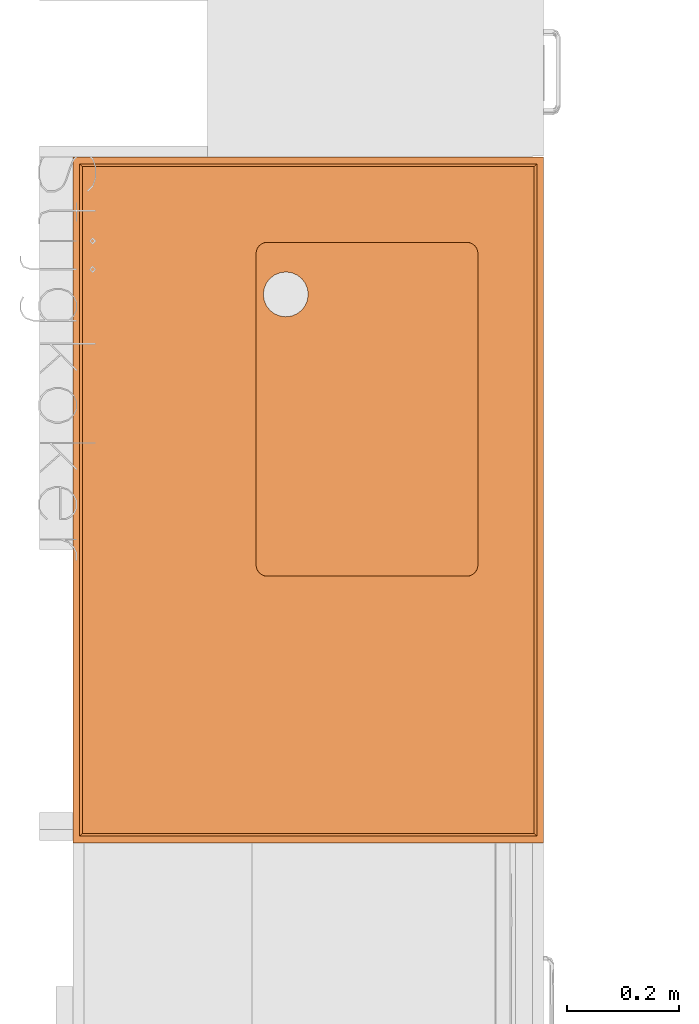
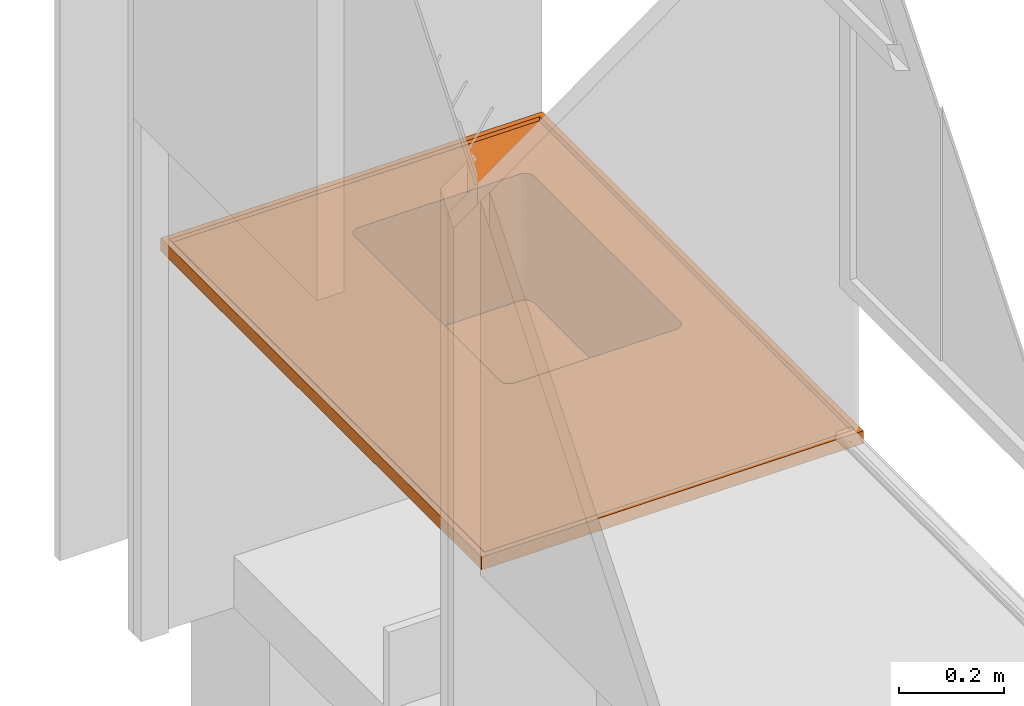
# One storey, part 41 of 43: 1 proxy.
"""IFC2X3 building model written with IfcOpenShell, lengths in metres."""

from ifc_helpers import new_model, entity, si_unit, converted_unit, derived_unit, direction, frame, origin, place, context, subcontext, project, spatial, faceted_brep, source, transform, mapped, material, type_object, type_shapes, element, save


model = new_model("IFC2X3")

# Units and contexts
model_context = context("Model", 3, precision=1e-05, world=origin(), true_north=direction((6.12303176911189e-17, 1.0)))
body_context = subcontext(model_context, "Body", "Model", "MODEL_VIEW")
ifc_project = project(units=[si_unit("LENGTHUNIT", "METRE"), si_unit("AREAUNIT", "SQUARE_METRE"), si_unit("VOLUMEUNIT", "CUBIC_METRE"), converted_unit("PLANEANGLEUNIT", "DEGREE", entity("IfcRatioMeasure", 0.0174532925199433), si_unit("PLANEANGLEUNIT", "RADIAN"), dimensions=[0, 0, 0, 0, 0, 0, 0]), si_unit("MASSUNIT", "GRAM", prefix="KILO"), derived_unit("MASSDENSITYUNIT", [(si_unit("MASSUNIT", "GRAM", prefix="KILO"), 1), (si_unit("LENGTHUNIT", "METRE"), -3)]), derived_unit("MOMENTOFINERTIAUNIT", [(si_unit("LENGTHUNIT", "METRE"), 4)]), si_unit("TIMEUNIT", "SECOND"), si_unit("FREQUENCYUNIT", "HERTZ"), si_unit("THERMODYNAMICTEMPERATUREUNIT", "DEGREE_CELSIUS"), derived_unit("THERMALTRANSMITTANCEUNIT", [(si_unit("MASSUNIT", "GRAM", prefix="KILO"), 1), (si_unit("THERMODYNAMICTEMPERATUREUNIT", "KELVIN"), -1), (si_unit("TIMEUNIT", "SECOND"), -3)]), derived_unit("VOLUMETRICFLOWRATEUNIT", [(si_unit("LENGTHUNIT", "METRE"), 3), (si_unit("TIMEUNIT", "SECOND"), -1)]), si_unit("ELECTRICCURRENTUNIT", "AMPERE"), si_unit("ELECTRICVOLTAGEUNIT", "VOLT"), si_unit("POWERUNIT", "WATT"), si_unit("FORCEUNIT", "NEWTON", prefix="KILO"), si_unit("ILLUMINANCEUNIT", "LUX"), si_unit("LUMINOUSFLUXUNIT", "LUMEN"), si_unit("LUMINOUSINTENSITYUNIT", "CANDELA"), derived_unit("USERDEFINED", [(si_unit("MASSUNIT", "GRAM", prefix="KILO"), -1), (si_unit("LENGTHUNIT", "METRE"), -2), (si_unit("TIMEUNIT", "SECOND"), 3), (si_unit("LUMINOUSFLUXUNIT", "LUMEN"), 1)]), derived_unit("LINEARVELOCITYUNIT", [(si_unit("LENGTHUNIT", "METRE"), 1), (si_unit("TIMEUNIT", "SECOND"), -1)]), si_unit("PRESSUREUNIT", "PASCAL"), derived_unit("USERDEFINED", [(si_unit("LENGTHUNIT", "METRE"), -2), (si_unit("MASSUNIT", "GRAM", prefix="KILO"), 1), (si_unit("TIMEUNIT", "SECOND"), -2)]), derived_unit("LINEARFORCEUNIT", [(si_unit("MASSUNIT", "GRAM", prefix="KILO"), 1), (si_unit("LENGTHUNIT", "METRE"), 1), (si_unit("TIMEUNIT", "SECOND"), -2), (si_unit("LENGTHUNIT", "METRE"), -1)]), derived_unit("PLANARFORCEUNIT", [(si_unit("MASSUNIT", "GRAM", prefix="KILO"), 1), (si_unit("LENGTHUNIT", "METRE"), 1), (si_unit("TIMEUNIT", "SECOND"), -2), (si_unit("LENGTHUNIT", "METRE"), -2)])], contexts=[model_context])

# Site, building, storey
site_placement = place(None, origin())
site = spatial("IfcSite", under=ifc_project, at=site_placement, Name="Default", CompositionType="ELEMENT")
building_placement = place(site_placement, origin())
building = spatial("IfcBuilding", under=site, at=building_placement, CompositionType="ELEMENT")
storey_placement = place(building_placement, frame((0.0, 0.0, 3.0)))
storey = spatial("IfcBuildingStorey", under=building, at=storey_placement, Name="01 OG", CompositionType="ELEMENT", Elevation=3.0)

# Proxy
ifc_material = material(Name="Steinzeug")
building_element_proxy_type = type_object("IfcBuildingElementProxyType", Name="dh_Tischplatte Steinzeug Becken:dh_Tischplatte Steinzeug Becken", PredefinedType="NOTDEFINED", material=ifc_material)
shared_shape = source(origin(), body_context, "Body", "Brep", [
    faceted_brep([(0.16000000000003, 0.327679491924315, 0.0), (0.155857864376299, 0.330857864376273, 0.0), (0.150681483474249, 0.339823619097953, 0.0), (0.15000000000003, 0.345000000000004, 0.0), (0.16482361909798, 0.325681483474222, 0.0), (0.152679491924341, 0.335000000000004, 0.0), (0.17000000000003, 0.325000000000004, 0.0), (0.206362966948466, 0.369647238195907, 0.0), (0.205000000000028, 0.380000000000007, 0.0), (0.206362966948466, 0.390352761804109, 0.0), (0.210358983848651, 0.400000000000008, 0.0), (0.150000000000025, 0.705000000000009, 0.0), (0.216715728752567, 0.40828427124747, 0.0), (0.225000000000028, 0.414641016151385, 0.0), (0.234647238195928, 0.41863703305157, 0.0), (0.245000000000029, 0.420000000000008, 0.0), (0.255352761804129, 0.41863703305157, 0.0), (0.170000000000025, 0.725000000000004, 0.0), (0.164823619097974, 0.72431851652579, 0.0), (0.160000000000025, 0.722320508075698, 0.0), (0.150681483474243, 0.710176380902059, 0.0), (0.155857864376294, 0.71914213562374, 0.0), (0.152679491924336, 0.715000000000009, 0.0), (0.265000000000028, 0.414641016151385, 0.0), (0.27328427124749, 0.408284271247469, 0.0), (0.73000000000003, 0.725000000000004, 0.0), (0.279641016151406, 0.400000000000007, 0.0), (0.73000000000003, 0.325000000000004, 0.0), (0.75000000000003, 0.705000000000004, 0.0), (0.73517638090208, 0.724318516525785, 0.0), (0.74000000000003, 0.722320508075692, 0.0), (0.749318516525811, 0.710176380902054, 0.0), (0.744142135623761, 0.719142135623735, 0.0), (0.747320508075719, 0.715000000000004, 0.0), (0.75000000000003, 0.345000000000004, 0.0), (0.735176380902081, 0.325681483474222, 0.0), (0.74000000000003, 0.327679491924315, 0.0), (0.749318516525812, 0.339823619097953, 0.0), (0.744142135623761, 0.330857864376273, 0.0), (0.747320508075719, 0.335000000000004, 0.0), (0.255352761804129, 0.341362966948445, 0.0), (0.265000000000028, 0.34535898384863, 0.0), (0.27328427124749, 0.351715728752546, 0.0), (0.279641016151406, 0.360000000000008, 0.0), (0.283637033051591, 0.369647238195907, 0.0), (0.285000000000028, 0.380000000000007, 0.0), (0.283637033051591, 0.390352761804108, 0.0), (0.210358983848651, 0.360000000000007, 0.0), (0.216715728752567, 0.351715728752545, 0.0), (0.225000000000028, 0.34535898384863, 0.0), (0.234647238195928, 0.341362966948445, 0.0), (0.245000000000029, 0.340000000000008, 0.0), (0.742142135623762, 0.332857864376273, 0.3), (0.74732050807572, 0.335000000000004, 0.3), (0.74532050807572, 0.337000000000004, 0.3), (0.744142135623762, 0.330857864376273, 0.3), (0.740000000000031, 0.327679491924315, 0.3), (0.738000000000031, 0.329679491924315, 0.3), (0.735176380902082, 0.325681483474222, 0.3), (0.733176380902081, 0.327681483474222, 0.3), (0.730000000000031, 0.325000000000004, 0.3), (0.728000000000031, 0.327000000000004, 0.3), (0.172000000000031, 0.327000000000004, 0.300000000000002), (0.170000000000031, 0.325000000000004, 0.300000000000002), (0.166823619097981, 0.327681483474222, 0.300000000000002), (0.164823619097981, 0.325681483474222, 0.300000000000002), (0.162000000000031, 0.329679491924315, 0.300000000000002), (0.160000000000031, 0.327679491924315, 0.300000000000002), (0.1578578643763, 0.332857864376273, 0.300000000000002), (0.1558578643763, 0.330857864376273, 0.300000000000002), (0.152679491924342, 0.335000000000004, 0.300000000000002), (0.154679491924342, 0.337000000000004, 0.300000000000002), (0.15068148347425, 0.339823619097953, 0.300000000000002), (0.15268148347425, 0.341823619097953, 0.300000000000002), (0.150000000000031, 0.345000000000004, 0.300000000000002), (0.152000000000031, 0.347000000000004, 0.300000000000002), (0.152000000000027, 0.703000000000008, 0.300000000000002), (0.150000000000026, 0.705000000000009, 0.300000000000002), (0.152681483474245, 0.708176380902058, 0.300000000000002), (0.150681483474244, 0.710176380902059, 0.300000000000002), (0.154679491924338, 0.713000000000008, 0.300000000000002), (0.152679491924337, 0.715000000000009, 0.300000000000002), (0.157857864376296, 0.717142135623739, 0.300000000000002), (0.155857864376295, 0.71914213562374, 0.300000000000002), (0.160000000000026, 0.722320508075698, 0.300000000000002), (0.162000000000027, 0.720320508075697, 0.300000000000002), (0.164823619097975, 0.72431851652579, 0.300000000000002), (0.166823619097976, 0.72231851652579, 0.300000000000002), (0.170000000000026, 0.725000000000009, 0.300000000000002), (0.172000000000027, 0.723000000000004, 0.300000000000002), (0.730000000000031, 0.725000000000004, 0.3), (0.728000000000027, 0.723, 0.3), (0.733176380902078, 0.722318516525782, 0.3), (0.735176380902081, 0.724318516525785, 0.3), (0.738000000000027, 0.720320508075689, 0.3), (0.740000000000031, 0.722320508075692, 0.3), (0.742142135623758, 0.717142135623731, 0.3), (0.744142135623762, 0.719142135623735, 0.3), (0.747320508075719, 0.715000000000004, 0.3), (0.745320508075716, 0.713, 0.3), (0.749318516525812, 0.710176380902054, 0.3), (0.747318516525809, 0.708176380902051, 0.3), (0.750000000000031, 0.705000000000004, 0.3), (0.748000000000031, 0.703, 0.3), (0.750000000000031, 0.345000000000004, 0.3), (0.748000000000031, 0.347000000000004, 0.3), (0.747318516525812, 0.341823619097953, 0.3), (0.749318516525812, 0.339823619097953, 0.3), (0.170000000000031, 0.325000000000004, 0.150000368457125), (0.730000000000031, 0.325000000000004, 0.15000042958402), (0.150000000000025, 0.705000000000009, 0.150000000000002), (0.150000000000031, 0.345000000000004, 0.150000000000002), (0.73000000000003, 0.725000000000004, 0.15), (0.170000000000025, 0.725000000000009, 0.150000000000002), (0.750000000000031, 0.345000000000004, 0.15), (0.75000000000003, 0.705000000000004, 0.15), (0.152681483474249, 0.341823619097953, 0.00500000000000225), (0.157857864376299, 0.332857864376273, 0.00500000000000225), (0.16200000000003, 0.329679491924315, 0.00500000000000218), (0.154679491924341, 0.337000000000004, 0.00500000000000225), (0.15200000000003, 0.347000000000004, 0.00500000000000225), (0.16682361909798, 0.327681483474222, 0.00500000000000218), (0.17200000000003, 0.327000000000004, 0.00500000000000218), (0.206362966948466, 0.369647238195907, 0.00500000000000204), (0.210358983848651, 0.360000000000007, 0.00500000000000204), (0.216715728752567, 0.351715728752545, 0.00500000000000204), (0.225000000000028, 0.34535898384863, 0.00500000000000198), (0.234647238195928, 0.341362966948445, 0.00500000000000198), (0.245000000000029, 0.340000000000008, 0.00500000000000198), (0.255352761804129, 0.341362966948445, 0.00500000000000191), (0.72800000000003, 0.327000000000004, 0.00500000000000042), (0.265000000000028, 0.34535898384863, 0.00500000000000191), (0.27328427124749, 0.351715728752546, 0.00500000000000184), (0.279641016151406, 0.360000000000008, 0.00500000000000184), (0.283637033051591, 0.369647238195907, 0.00500000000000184), (0.285000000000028, 0.380000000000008, 0.00500000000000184), (0.283637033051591, 0.390352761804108, 0.00500000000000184), (0.279641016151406, 0.400000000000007, 0.00500000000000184), (0.728000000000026, 0.723, 0.00500000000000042), (0.748000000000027, 0.703, 0.00500000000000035), (0.74800000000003, 0.347000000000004, 0.00500000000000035), (0.733176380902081, 0.327681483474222, 0.00500000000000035), (0.73800000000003, 0.329679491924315, 0.00500000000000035), (0.747318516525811, 0.341823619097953, 0.00500000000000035), (0.742142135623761, 0.332857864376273, 0.00500000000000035), (0.745320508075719, 0.337000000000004, 0.00500000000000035), (0.733176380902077, 0.722318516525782, 0.00500000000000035), (0.738000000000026, 0.720320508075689, 0.00500000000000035), (0.747318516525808, 0.708176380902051, 0.00500000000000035), (0.742142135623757, 0.717142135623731, 0.00500000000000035), (0.745320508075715, 0.713000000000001, 0.00500000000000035), (0.27328427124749, 0.408284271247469, 0.00500000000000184), (0.172000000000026, 0.723000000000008, 0.00500000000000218), (0.265000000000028, 0.414641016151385, 0.00500000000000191), (0.255352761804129, 0.41863703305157, 0.00500000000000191), (0.152000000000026, 0.703000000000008, 0.00500000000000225), (0.166823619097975, 0.72231851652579, 0.00500000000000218), (0.162000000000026, 0.720320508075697, 0.00500000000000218), (0.152681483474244, 0.708176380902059, 0.00500000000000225), (0.157857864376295, 0.717142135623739, 0.00500000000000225), (0.154679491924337, 0.713000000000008, 0.00500000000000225), (0.210358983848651, 0.400000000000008, 0.00500000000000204), (0.216715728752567, 0.40828427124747, 0.00500000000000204), (0.225000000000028, 0.414641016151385, 0.00500000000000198), (0.234647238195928, 0.41863703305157, 0.00500000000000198), (0.245000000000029, 0.420000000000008, 0.00500000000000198), (0.205000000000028, 0.380000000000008, 0.00500000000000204), (0.206362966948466, 0.390352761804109, 0.00500000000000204), (0.728000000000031, 0.327000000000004, 0.1525), (0.172000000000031, 0.327000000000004, 0.152499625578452), (0.152000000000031, 0.347000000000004, 0.152500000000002), (0.152000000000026, 0.703000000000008, 0.152500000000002), (0.172000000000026, 0.723000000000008, 0.152500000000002), (0.728000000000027, 0.723, 0.1525), (0.748000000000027, 0.703, 0.1525), (0.748000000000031, 0.347000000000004, 0.1525), (0.164346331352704, 0.328522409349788, 0.152499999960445), (0.152384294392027, 0.343098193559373, 0.187662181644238), (0.153522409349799, 0.339346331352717, 0.152499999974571), (0.168098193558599, 0.32738429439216, 0.117337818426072), (0.159824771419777, 0.33113293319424, 0.136631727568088), (0.156132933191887, 0.334824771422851, 0.168368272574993), (0.153522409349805, 0.710653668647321, 0.15249999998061), (0.168098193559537, 0.72261570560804, 0.187662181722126), (0.164346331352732, 0.721477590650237, 0.152499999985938), (0.152384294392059, 0.706901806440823, 0.117337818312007), (0.156132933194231, 0.715175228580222, 0.136631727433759), (0.15982477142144, 0.718867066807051, 0.168368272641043), (0.735653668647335, 0.721477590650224, 0.152499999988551), (0.747615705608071, 0.706901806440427, 0.187662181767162), (0.746477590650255, 0.710653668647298, 0.1524999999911), (0.731901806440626, 0.72261570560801, 0.117337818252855), (0.740175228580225, 0.718867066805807, 0.136631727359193), (0.7438670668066, 0.715175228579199, 0.168368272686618), (0.746477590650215, 0.339346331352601, 0.152499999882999), (0.731901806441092, 0.327384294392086, 0.187662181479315), (0.735653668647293, 0.328522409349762, 0.152499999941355), (0.747615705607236, 0.343098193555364, 0.117337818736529), (0.743867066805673, 0.334824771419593, 0.136631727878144), (0.740175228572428, 0.331132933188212, 0.168368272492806), (0.162346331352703, 0.326522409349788, 0.149999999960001), (0.151522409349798, 0.337346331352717, 0.14999999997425), (0.150384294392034, 0.341098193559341, 0.187055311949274), (0.166098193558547, 0.32538429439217, 0.112944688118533), (0.157824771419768, 0.329132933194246, 0.13191703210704), (0.154132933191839, 0.332824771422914, 0.16808296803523), (0.151522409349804, 0.712653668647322, 0.149999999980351), (0.162346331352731, 0.723477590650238, 0.149999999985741), (0.166098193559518, 0.724615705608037, 0.187055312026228), (0.150384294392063, 0.708901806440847, 0.11294468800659), (0.154132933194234, 0.717175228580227, 0.13191703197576), (0.157824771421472, 0.720867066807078, 0.16808296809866), (0.737653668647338, 0.723477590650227, 0.149999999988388), (0.748477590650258, 0.712653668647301, 0.14999999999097), (0.749615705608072, 0.708901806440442, 0.187055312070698), (0.733901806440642, 0.72461570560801, 0.112944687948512), (0.742175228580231, 0.720867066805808, 0.131917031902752), (0.745867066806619, 0.717175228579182, 0.168082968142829), (0.748477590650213, 0.337346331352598, 0.149999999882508), (0.737653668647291, 0.326522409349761, 0.149999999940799), (0.733901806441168, 0.325384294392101, 0.187055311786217), (0.749615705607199, 0.341098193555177, 0.112944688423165), (0.745867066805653, 0.332824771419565, 0.131917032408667), (0.742175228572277, 0.329132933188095, 0.168082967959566)], [[[0, 1, 2]], [[3, 0, 2]], [[4, 0, 3]], [[1, 5, 2]], [[3, 6, 4]], [[3, 7, 6]], [[8, 7, 3]], [[9, 8, 3]], [[10, 9, 3]], [[10, 3, 11]], [[10, 11, 12]], [[13, 12, 11]], [[11, 14, 13]], [[14, 11, 15]], [[15, 11, 16]], [[17, 16, 11]], [[18, 17, 11]], [[18, 11, 19]], [[11, 20, 19]], [[21, 19, 20]], [[22, 21, 20]], [[16, 17, 23]], [[23, 17, 24]], [[24, 17, 25]], [[25, 26, 24]], [[27, 26, 25]], [[27, 25, 28]], [[29, 28, 25]], [[28, 29, 30]], [[28, 30, 31]], [[31, 30, 32]], [[33, 31, 32]], [[34, 27, 28]], [[35, 27, 34]], [[36, 35, 34]], [[37, 36, 34]], [[38, 36, 37]], [[37, 39, 38]], [[27, 6, 40]], [[27, 40, 41]], [[27, 41, 42]], [[43, 27, 42]], [[27, 43, 44]], [[27, 44, 45]], [[46, 27, 45]], [[26, 27, 46]], [[6, 7, 47]], [[48, 6, 47]], [[6, 48, 49]], [[49, 50, 6]], [[50, 51, 6]], [[40, 6, 51]], [[52, 53, 54]], [[55, 53, 52]], [[55, 52, 56]], [[57, 56, 52]], [[58, 56, 57]], [[57, 59, 58]], [[60, 58, 59]], [[61, 60, 59]], [[62, 60, 61]], [[60, 62, 63]], [[63, 62, 64]], [[65, 63, 64]], [[66, 65, 64]], [[66, 67, 65]], [[66, 68, 67]], [[69, 67, 68]], [[69, 68, 70]], [[68, 71, 70]], [[72, 70, 71]], [[72, 71, 73]], [[73, 74, 72]], [[74, 73, 75]], [[76, 74, 75]], [[74, 76, 77]], [[77, 76, 78]], [[79, 77, 78]], [[79, 78, 80]], [[80, 81, 79]], [[80, 82, 81]], [[83, 81, 82]], [[84, 83, 82]], [[84, 82, 85]], [[86, 84, 85]], [[86, 85, 87]], [[86, 87, 88]], [[88, 87, 89]], [[90, 88, 89]], [[89, 91, 90]], [[92, 90, 91]], [[92, 93, 90]], [[93, 92, 94]], [[93, 94, 95]], [[95, 94, 96]], [[97, 95, 96]], [[97, 96, 98]], [[99, 98, 96]], [[99, 100, 98]], [[99, 101, 100]], [[100, 101, 102]], [[101, 103, 102]], [[104, 102, 103]], [[103, 105, 104]], [[104, 105, 106]], [[106, 107, 104]], [[106, 54, 107]], [[107, 54, 53]], [[60, 63, 108, 6, 27, 109]], [[77, 110, 11, 3, 111, 74]], [[90, 112, 25, 17, 113, 88]], [[104, 114, 34, 28, 115, 102]], [[116, 117, 118]], [[116, 119, 117]], [[116, 118, 120]], [[120, 118, 121]], [[121, 122, 120]], [[122, 123, 120]], [[124, 123, 122]], [[124, 122, 125]], [[126, 125, 122]], [[122, 127, 126]], [[122, 128, 127]], [[128, 122, 129]], [[129, 122, 130]], [[131, 129, 130]], [[132, 131, 130]], [[132, 130, 133]], [[134, 133, 130]], [[135, 134, 130]], [[135, 130, 136]], [[136, 130, 137]], [[138, 137, 130]], [[139, 138, 130]], [[139, 130, 140]], [[140, 130, 141]], [[140, 141, 142]], [[140, 142, 143]], [[143, 142, 144]], [[144, 145, 143]], [[138, 139, 146]], [[147, 146, 139]], [[148, 147, 139]], [[149, 147, 148]], [[149, 148, 150]], [[151, 137, 138]], [[138, 152, 151]], [[151, 152, 153]], [[153, 152, 154]], [[155, 154, 152]], [[155, 152, 156]], [[157, 155, 156]], [[157, 158, 155]], [[158, 157, 159]], [[158, 159, 160]], [[155, 120, 161]], [[162, 155, 161]], [[155, 162, 163]], [[163, 164, 155]], [[165, 155, 164]], [[154, 155, 165]], [[120, 123, 166]], [[120, 166, 167]], [[120, 167, 161]], [[62, 61, 168, 130, 122, 169]], [[75, 170, 120, 155, 171, 76]], [[91, 89, 172, 152, 138, 173]], [[103, 174, 139, 140, 175, 105]], [[44, 134, 135, 45]], [[43, 133, 134, 44]], [[131, 132, 42, 41]], [[43, 42, 132, 133]], [[129, 131, 41, 40]], [[128, 129, 40, 51]], [[50, 127, 128, 51]], [[49, 126, 127, 50]], [[124, 125, 48, 47]], [[49, 48, 125, 126]], [[123, 124, 47, 7]], [[166, 123, 7, 8]], [[9, 167, 166, 8]], [[10, 161, 167, 9]], [[163, 162, 12, 13]], [[10, 12, 162, 161]], [[164, 163, 13, 14]], [[165, 164, 14, 15]], [[16, 154, 165, 15]], [[23, 153, 154, 16]], [[137, 151, 24, 26]], [[23, 24, 151, 153]], [[136, 137, 26, 46]], [[135, 136, 46, 45]], [[176, 121, 118]], [[116, 177, 178]], [[122, 179, 169]], [[180, 176, 118]], [[118, 117, 180]], [[179, 121, 176]], [[177, 75, 73]], [[169, 64, 62]], [[66, 64, 176]], [[121, 179, 122]], [[66, 176, 180]], [[75, 177, 170]], [[178, 119, 116]], [[181, 180, 117]], [[68, 180, 181]], [[116, 120, 170]], [[117, 119, 181]], [[181, 178, 71]], [[169, 179, 64]], [[178, 73, 71]], [[178, 177, 73]], [[66, 180, 68]], [[170, 177, 116]], [[119, 178, 181]], [[64, 179, 176]], [[181, 71, 68]], [[182, 158, 160]], [[156, 183, 184]], [[155, 185, 171]], [[186, 182, 160]], [[160, 159, 186]], [[185, 158, 182]], [[183, 89, 87]], [[171, 78, 76]], [[80, 78, 182]], [[158, 185, 155]], [[80, 182, 186]], [[89, 183, 172]], [[184, 157, 156]], [[187, 186, 159]], [[82, 186, 187]], [[156, 152, 172]], [[159, 157, 187]], [[187, 184, 85]], [[171, 185, 78]], [[184, 87, 85]], [[184, 183, 87]], [[80, 186, 82]], [[172, 183, 156]], [[157, 184, 187]], [[78, 185, 182]], [[187, 85, 82]], [[188, 146, 147]], [[148, 189, 190]], [[138, 191, 173]], [[192, 188, 147]], [[147, 149, 192]], [[191, 146, 188]], [[189, 103, 101]], [[173, 92, 91]], [[94, 92, 188]], [[146, 191, 138]], [[94, 188, 192]], [[103, 189, 174]], [[190, 150, 148]], [[193, 192, 149]], [[96, 192, 193]], [[148, 139, 174]], [[149, 150, 193]], [[193, 190, 99]], [[173, 191, 92]], [[190, 101, 99]], [[190, 189, 101]], [[94, 192, 96]], [[174, 189, 148]], [[150, 190, 193]], [[92, 191, 188]], [[193, 99, 96]], [[194, 143, 145]], [[141, 195, 196]], [[140, 197, 175]], [[198, 194, 145]], [[145, 144, 198]], [[197, 143, 194]], [[195, 61, 59]], [[175, 106, 105]], [[54, 106, 194]], [[143, 197, 140]], [[54, 194, 198]], [[61, 195, 168]], [[196, 142, 141]], [[199, 198, 144]], [[52, 198, 199]], [[141, 130, 168]], [[144, 142, 199]], [[199, 196, 57]], [[175, 197, 106]], [[196, 59, 57]], [[196, 195, 59]], [[54, 198, 52]], [[168, 195, 141]], [[142, 196, 199]], [[106, 197, 194]], [[199, 57, 52]], [[0, 4, 200]], [[201, 202, 2]], [[108, 203, 6]], [[0, 200, 204]], [[204, 1, 0]], [[200, 4, 203]], [[72, 74, 202]], [[63, 65, 108]], [[200, 65, 67]], [[6, 203, 4]], [[204, 200, 67]], [[111, 202, 74]], [[2, 5, 201]], [[1, 204, 205]], [[205, 204, 69]], [[111, 3, 2]], [[205, 5, 1]], [[70, 201, 205]], [[65, 203, 108]], [[70, 72, 201]], [[72, 202, 201]], [[69, 204, 67]], [[2, 202, 111]], [[205, 201, 5]], [[200, 203, 65]], [[69, 70, 205]], [[22, 20, 206]], [[207, 208, 18]], [[110, 209, 11]], [[22, 206, 210]], [[210, 21, 22]], [[206, 20, 209]], [[86, 88, 208]], [[77, 79, 110]], [[206, 79, 81]], [[11, 209, 20]], [[210, 206, 81]], [[113, 208, 88]], [[18, 19, 207]], [[21, 210, 211]], [[211, 210, 83]], [[113, 17, 18]], [[211, 19, 21]], [[84, 207, 211]], [[79, 209, 110]], [[84, 86, 207]], [[86, 208, 207]], [[83, 210, 81]], [[18, 208, 113]], [[211, 207, 19]], [[206, 209, 79]], [[83, 84, 211]], [[30, 29, 212]], [[213, 214, 31]], [[112, 215, 25]], [[30, 212, 216]], [[216, 32, 30]], [[212, 29, 215]], [[100, 102, 214]], [[90, 93, 112]], [[212, 93, 95]], [[25, 215, 29]], [[216, 212, 95]], [[115, 214, 102]], [[31, 33, 213]], [[32, 216, 217]], [[217, 216, 97]], [[115, 28, 31]], [[217, 33, 32]], [[98, 213, 217]], [[93, 215, 112]], [[98, 100, 213]], [[100, 214, 213]], [[97, 216, 95]], [[31, 214, 115]], [[217, 213, 33]], [[212, 215, 93]], [[97, 98, 217]], [[39, 37, 218]], [[219, 220, 35]], [[114, 221, 34]], [[39, 218, 222]], [[222, 38, 39]], [[218, 37, 221]], [[58, 60, 220]], [[104, 107, 114]], [[218, 107, 53]], [[34, 221, 37]], [[222, 218, 53]], [[109, 220, 60]], [[35, 36, 219]], [[38, 222, 223]], [[223, 222, 55]], [[109, 27, 35]], [[223, 36, 38]], [[56, 219, 223]], [[107, 221, 114]], [[56, 58, 219]], [[58, 220, 219]], [[55, 222, 53]], [[35, 220, 109]], [[223, 219, 36]], [[218, 221, 107]], [[55, 56, 223]]]),
    faceted_brep([(0.747318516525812, 0.341823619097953, 0.3), (0.74532050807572, 0.337000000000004, 0.3), (1.2070000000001, 0.0170000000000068, 0.299999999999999), (0.748000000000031, 0.347000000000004, 0.3), (0.742142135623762, 0.332857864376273, 0.300000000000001), (0.738000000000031, 0.329679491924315, 0.300000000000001), (0.733176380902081, 0.327681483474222, 0.300000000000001), (0.728000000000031, 0.327000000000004, 0.300000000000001), (0.0170000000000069, 0.0170000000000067, 0.300000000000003), (0.172000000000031, 0.327000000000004, 0.300000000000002), (0.166823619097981, 0.327681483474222, 0.300000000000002), (0.162000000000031, 0.329679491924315, 0.300000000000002), (0.1578578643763, 0.332857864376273, 0.300000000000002), (0.154679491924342, 0.337000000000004, 0.300000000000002), (0.15268148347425, 0.341823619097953, 0.300000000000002), (0.152000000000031, 0.347000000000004, 0.300000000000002), (0.0170000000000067, 0.823000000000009, 0.300000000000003), (0.152000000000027, 0.703000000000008, 0.300000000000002), (0.152681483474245, 0.708176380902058, 0.300000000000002), (0.154679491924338, 0.713000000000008, 0.300000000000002), (0.157857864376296, 0.717142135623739, 0.300000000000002), (0.162000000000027, 0.720320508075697, 0.300000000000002), (0.166823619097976, 0.72231851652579, 0.300000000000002), (0.172000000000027, 0.723000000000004, 0.300000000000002), (0.728000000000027, 0.723, 0.300000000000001), (1.2070000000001, 0.823000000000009, 0.299999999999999), (0.733176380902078, 0.722318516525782, 0.300000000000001), (0.738000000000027, 0.720320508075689, 0.300000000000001), (0.742142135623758, 0.717142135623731, 0.300000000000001), (0.745320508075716, 0.713, 0.3), (0.747318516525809, 0.708176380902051, 0.3), (0.748000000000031, 0.703, 0.3), (0.15268148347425, 0.341823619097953, 0.275000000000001), (0.154679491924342, 0.337000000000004, 0.275000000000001), (0.0, 0.0, 0.275000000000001), (0.152000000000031, 0.347000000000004, 0.275000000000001), (0.1578578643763, 0.332857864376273, 0.275000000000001), (0.162000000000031, 0.329679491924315, 0.275000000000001), (0.166823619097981, 0.327681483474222, 0.275000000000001), (0.172000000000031, 0.327000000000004, 0.275000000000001), (0.728000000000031, 0.327000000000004, 0.274999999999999), (1.2240000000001, 0.0, 0.274999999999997), (0.733176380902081, 0.327681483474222, 0.274999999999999), (0.738000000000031, 0.329679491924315, 0.274999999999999), (0.742142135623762, 0.332857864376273, 0.274999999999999), (0.74532050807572, 0.337000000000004, 0.274999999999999), (0.747318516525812, 0.341823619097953, 0.274999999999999), (0.748000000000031, 0.347000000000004, 0.274999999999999), (1.2240000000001, 0.840000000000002, 0.274999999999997), (0.748000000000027, 0.703, 0.274999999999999), (0.747318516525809, 0.708176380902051, 0.274999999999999), (0.745320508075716, 0.713, 0.274999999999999), (0.742142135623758, 0.717142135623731, 0.274999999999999), (0.738000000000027, 0.720320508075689, 0.274999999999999), (0.733176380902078, 0.722318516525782, 0.274999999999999), (0.728000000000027, 0.723, 0.274999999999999), (0.0, 0.840000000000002, 0.275000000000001), (0.172000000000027, 0.723000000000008, 0.275000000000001), (0.166823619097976, 0.72231851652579, 0.275000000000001), (0.162000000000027, 0.720320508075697, 0.275000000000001), (0.157857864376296, 0.717142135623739, 0.275000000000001), (0.154679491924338, 0.713000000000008, 0.275000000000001), (0.152681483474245, 0.708176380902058, 0.275000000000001), (0.152000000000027, 0.703000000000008, 0.275000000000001), (1.22400000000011, 0.0, 0.304999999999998), (0.0, 0.0, 0.305000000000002), (0.0, 0.840000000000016, 0.305000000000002), (1.22400000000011, 0.840000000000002, 0.304999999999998), (0.012000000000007, 0.0120000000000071, 0.305000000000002), (1.2120000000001, 0.012000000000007, 0.304999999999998), (1.2120000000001, 0.828000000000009, 0.304999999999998), (0.0120000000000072, 0.828000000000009, 0.305000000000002)], [[[0, 1, 2]], [[2, 3, 0]], [[4, 2, 1]], [[2, 4, 5]], [[2, 5, 6]], [[2, 6, 7]], [[7, 8, 2]], [[8, 7, 9]], [[8, 9, 10]], [[11, 8, 10]], [[8, 11, 12]], [[12, 13, 8]], [[14, 8, 13]], [[8, 14, 15]], [[15, 16, 8]], [[16, 15, 17]], [[16, 17, 18]], [[18, 19, 16]], [[20, 16, 19]], [[16, 20, 21]], [[22, 16, 21]], [[16, 22, 23]], [[24, 16, 23]], [[16, 24, 25]], [[25, 24, 26]], [[25, 26, 27]], [[25, 27, 28]], [[28, 29, 25]], [[30, 25, 29]], [[25, 30, 31]], [[3, 25, 31]], [[25, 3, 2]], [[32, 33, 34]], [[34, 35, 32]], [[36, 34, 33]], [[34, 36, 37]], [[34, 37, 38]], [[34, 38, 39]], [[39, 40, 34]], [[41, 34, 40]], [[41, 40, 42]], [[43, 41, 42]], [[41, 43, 44]], [[44, 45, 41]], [[46, 41, 45]], [[41, 46, 47]], [[47, 48, 41]], [[48, 47, 49]], [[48, 49, 50]], [[50, 51, 48]], [[52, 48, 51]], [[48, 52, 53]], [[54, 48, 53]], [[48, 54, 55]], [[56, 48, 55]], [[55, 57, 56]], [[56, 57, 58]], [[56, 58, 59]], [[56, 59, 60]], [[60, 61, 56]], [[62, 56, 61]], [[56, 62, 63]], [[35, 56, 63]], [[56, 35, 34]], [[34, 41, 64, 65]], [[56, 34, 65, 66]], [[56, 66, 67, 48]], [[48, 67, 64, 41]], [[2, 8, 68, 69]], [[25, 2, 69, 70]], [[16, 25, 70, 71]], [[8, 16, 71, 68]], [[71, 70, 67]], [[67, 66, 71]], [[68, 71, 66]], [[69, 67, 70]], [[68, 64, 69]], [[67, 69, 64]], [[64, 68, 65]], [[66, 65, 68]], [[9, 7, 40, 39]], [[17, 15, 35, 63]], [[24, 23, 57, 55]], [[3, 31, 49, 47]], [[10, 9, 39, 38]], [[11, 10, 38, 37]], [[12, 11, 37, 36]], [[13, 12, 36, 33]], [[13, 33, 32, 14]], [[35, 15, 14, 32]], [[18, 17, 63, 62]], [[19, 18, 62, 61]], [[20, 19, 61, 60]], [[22, 21, 59, 58]], [[22, 58, 57, 23]], [[60, 59, 21, 20]], [[26, 24, 55, 54]], [[27, 26, 54, 53]], [[28, 27, 53, 52]], [[30, 29, 51, 50]], [[30, 50, 49, 31]], [[52, 51, 29, 28]], [[0, 3, 47, 46]], [[1, 0, 46, 45]], [[4, 1, 45, 44]], [[5, 4, 44, 43]], [[5, 43, 42, 6]], [[40, 7, 6, 42]]]),
])
type_shapes(building_element_proxy_type, [shared_shape])
proxy_placement = place(storey_placement, frame((10.2100000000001, 16.0239999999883, 1.295), z_axis=(0.0, 0.0, 1.0), x_axis=(0.0, -1.0, 0.0)))
element("IfcBuildingElementProxy", 1, at=proxy_placement, inside=storey, type_object=building_element_proxy_type, material=ifc_material, Name="dh_Tischplatte Steinzeug Becken:dh_Tischplatte Steinzeug Becken", ObjectType="dh_Tischplatte Steinzeug Becken:dh_Tischplatte Steinzeug Becken", context=body_context, shape_type="MappedRepresentation", body=[
    mapped(shared_shape, transform((0.0, 0.0, 0.0), scale=1.0)),
])

save(model, "model.ifc")
